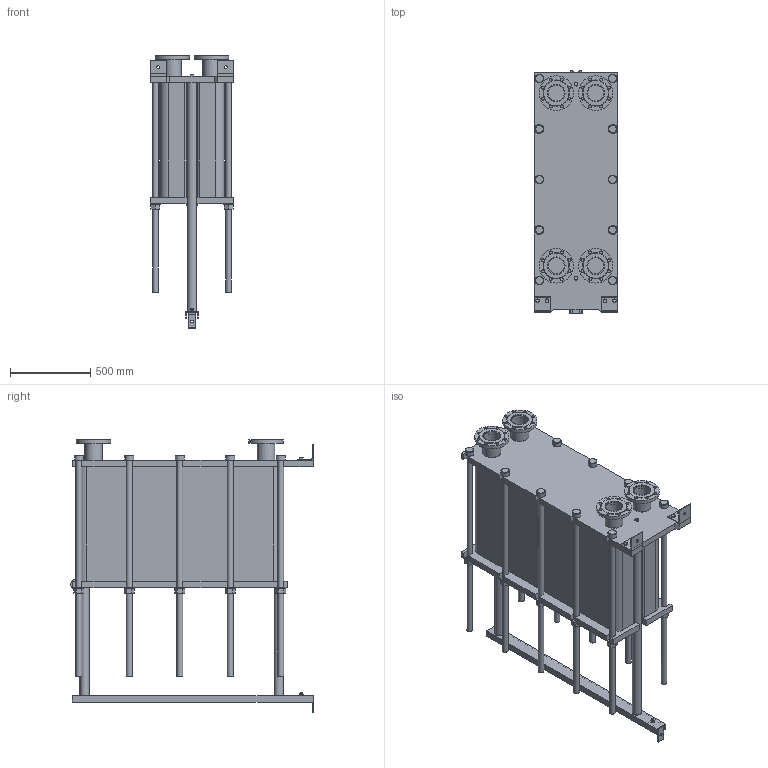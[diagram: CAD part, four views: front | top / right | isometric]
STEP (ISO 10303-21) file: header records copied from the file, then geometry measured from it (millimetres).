
FILE_DESCRIPTION(/* description */ (''),/* implementation_level */ '2;1');
FILE_NAME(/* name */ 'C:\Users\zhuro\Desktop\ENCO\TO\ЭН-04\ЭН-0,5-04-207-1.stp',/* time_stamp */ '2022-06-06T11:04:19+03:00',/* author */ ('zhuro'),/* organization */ (''),/* preprocessor_version */ 'ST-DEVELOPER v18.1',/* originating_system */ 'Autodesk Inventor 2022',/* authorisation */ '');
FILE_SCHEMA (('AUTOMOTIVE_DESIGN { 1 0 10303 214 3 1 1 }'));
Length unit declared in the file: millimetre
Products named in the file (1): ЭН-0,5-04-207-1
Bounding box: 520 x 1510 x 1703.5 mm (x, y, z)
Volume: 433866625.3 mm3; surface area: 10708202.1 mm2
Topology: 45 solids, 45 shells, 668 faces, 1611 edges, 1048 vertices
Faces by surface type: plane 457, cylinder 166, cone 39, torus 6
Full cylindrical faces by diameter (mm): 8 x4, 10 x2, 16 x8, 18 x35, 36 x25, 40 x2, 42 x1, 45 x4, 54 x10, 57 x2, 60 x10, 68 x2, 100 x4, 110 x8, 215 x4
Entity records: 23607 total; most frequent: CARTESIAN_POINT 7348, DIRECTION 3371, ORIENTED_EDGE 3142, EDGE_CURVE 1571, AXIS2_PLACEMENT_3D 1199, VERTEX_POINT 1044, LINE 973, VECTOR 973
